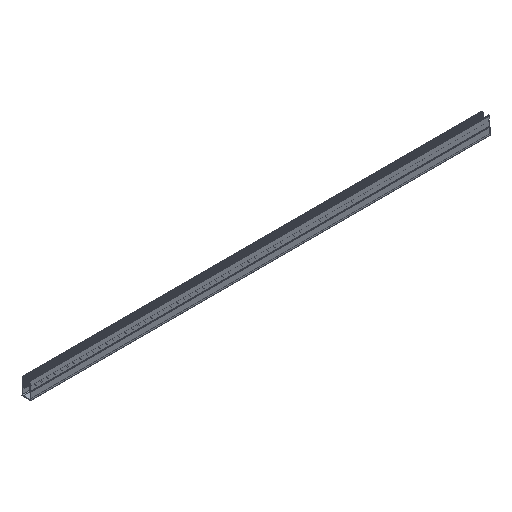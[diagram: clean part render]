
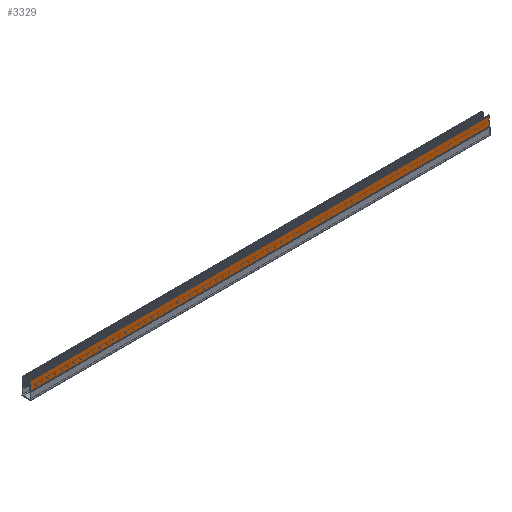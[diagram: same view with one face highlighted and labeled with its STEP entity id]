
A CAD part, isometric view. The second image highlights one B-rep face of the part: STEP entity #3329.
In plain terms, the highlighted planar face has unit normal (0, -1, 0).
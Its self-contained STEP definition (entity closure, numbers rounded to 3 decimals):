
#377=FACE_OUTER_BOUND('',#558,.T.);
#558=EDGE_LOOP('',(#2420,#2421,#2422,#2423));
#809=LINE('',#4753,#1126);
#810=LINE('',#4756,#1127);
#811=LINE('',#4758,#1128);
#812=LINE('',#4759,#1129);
#1126=VECTOR('',#4013,10.);
#1127=VECTOR('',#4016,10.);
#1128=VECTOR('',#4017,10.);
#1129=VECTOR('',#4018,10.);
#1429=VERTEX_POINT('',#4749);
#1430=VERTEX_POINT('',#4751);
#1431=VERTEX_POINT('',#4755);
#1432=VERTEX_POINT('',#4757);
#1831=EDGE_CURVE('',#1429,#1430,#809,.T.);
#1832=EDGE_CURVE('',#1429,#1431,#810,.T.);
#1833=EDGE_CURVE('',#1432,#1430,#811,.T.);
#1834=EDGE_CURVE('',#1431,#1432,#812,.T.);
#2420=ORIENTED_EDGE('',*,*,#1832,.F.);
#2421=ORIENTED_EDGE('',*,*,#1831,.T.);
#2422=ORIENTED_EDGE('',*,*,#1833,.F.);
#2423=ORIENTED_EDGE('',*,*,#1834,.F.);
#3227=PLANE('',#3568);
#3329=ADVANCED_FACE('',(#377),#3227,.T.);
#3568=AXIS2_PLACEMENT_3D('',#4754,#4014,#4015);
#4013=DIRECTION('',(1.,0.,0.));
#4014=DIRECTION('center_axis',(0.,-1.,0.));
#4015=DIRECTION('ref_axis',(0.,0.,-1.));
#4016=DIRECTION('',(0.,0.,1.));
#4017=DIRECTION('',(0.,0.,-1.));
#4018=DIRECTION('',(1.,0.,0.));
#4749=CARTESIAN_POINT('',(0.,-8.49,17.6));
#4751=CARTESIAN_POINT('',(1000.,-8.49,17.6));
#4753=CARTESIAN_POINT('',(0.,-8.49,17.6));
#4754=CARTESIAN_POINT('Origin',(0.,-8.49,36.995));
#4755=CARTESIAN_POINT('',(0.,-8.49,36.995));
#4756=CARTESIAN_POINT('',(0.,-8.49,17.6));
#4757=CARTESIAN_POINT('',(1000.,-8.49,36.995));
#4758=CARTESIAN_POINT('',(1000.,-8.49,17.6));
#4759=CARTESIAN_POINT('',(0.,-8.49,36.995));
